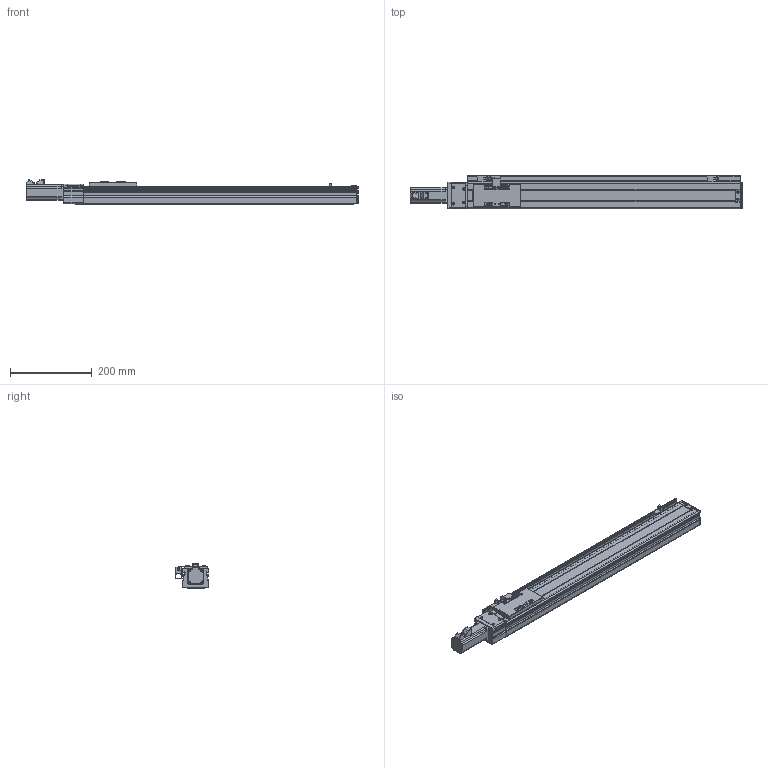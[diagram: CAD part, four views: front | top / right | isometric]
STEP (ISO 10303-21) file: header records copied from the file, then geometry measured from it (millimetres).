
FILE_DESCRIPTION (( 'STEP AP203' ), '1' );
FILE_NAME ('VT6-L10-C-S520-BC-P10-C4.STEP', '2015-10-26T05:59:07', ( '' ), ( '' ), 'SwSTEP 2.0', 'SolidWorks 2013', '' );
FILE_SCHEMA (( 'CONFIG_CONTROL_DESIGN' ));
Length unit declared in the file: millimetre
Products named in the file (15): ET6-BC佪裝_520; ET6-BC耜啣_520; VT6-L10-C-S520-BC-P10-C4; ET6-BC癹弇羲壽羞_520; EE-XS674; ET6-BC絳寢_俴最520; T6-BCヶ傷裔揤啣; T6-BCヶ傷裔; 侂狟100W MSMD012G1U; ET6-BC滅鳥湍_520; T6-裔啣; T6-揤輸; T6-覜茼え; T6-賑雄殤; T6-綴傷裔
Assembly tree (17 placements, depth 2):
  VT6-L10-C-S520-BC-P10-C4
    ET6-BC耜啣_520  x2
    ET6-BC癹弇羲壽羞_520
    T6-賑雄殤
    T6-裔啣
    T6-揤輸
    T6-覜茼え
    T6-綴傷裔
    EE-XS674  x3
    ET6-BC絳寢_俴最520
    ET6-BC滅鳥湍_520
    T6-BCヶ傷裔揤啣
    T6-BCヶ傷裔
    侂狟100W MSMD012G1U
    ET6-BC佪裝_520
Bounding box: 814 x 83 x 61 mm (x, y, z)
Volume: 910492.3 mm3; surface area: 523723.3 mm2
Topology: 17 solids, 17 shells, 896 faces, 2373 edges, 1500 vertices
Faces by surface type: cylinder 416, plane 378, cone 56, torus 28, sphere 18
Entity records: 27550 total; most frequent: CARTESIAN_POINT 4777, DIRECTION 4605, ORIENTED_EDGE 4272, EDGE_CURVE 2136, AXIS2_PLACEMENT_3D 1680, VERTEX_POINT 1360, LINE 1245, VECTOR 1245
